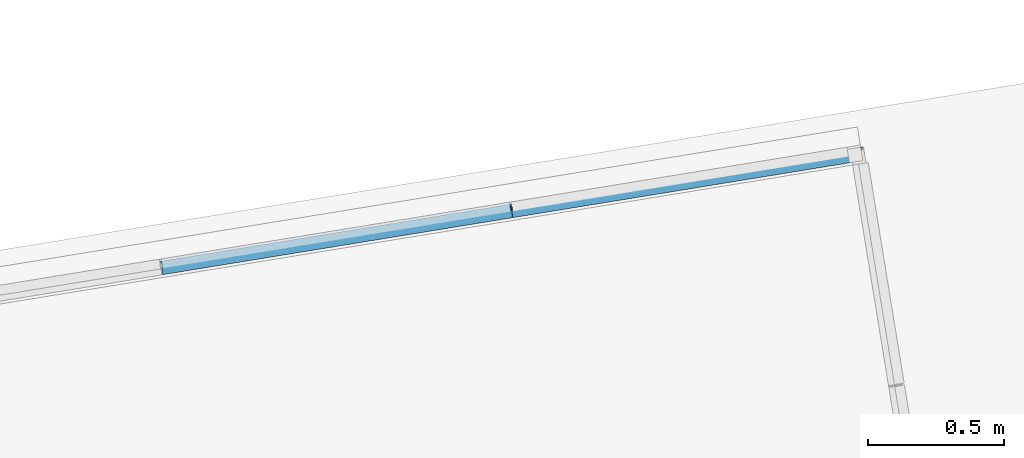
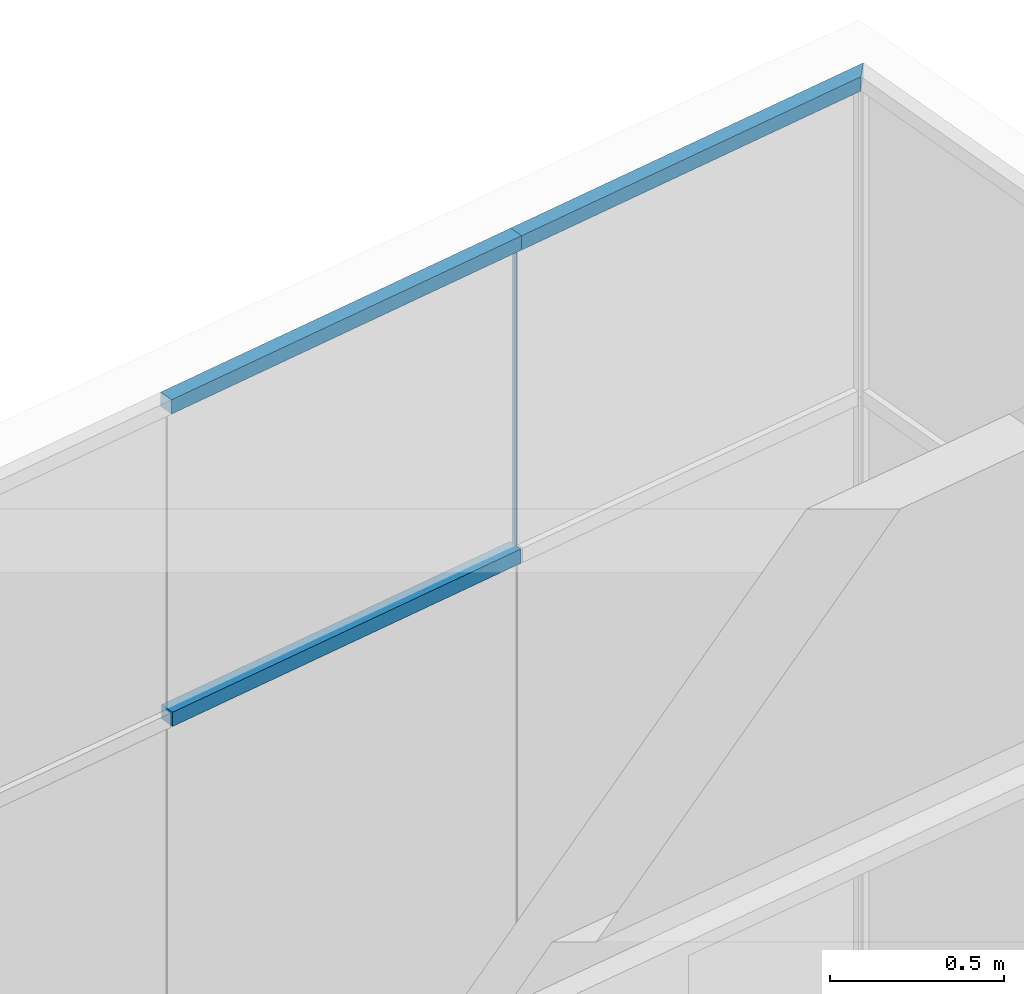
# One storey, part 10 of 13: 4 members, 1 element without a shape of its own.
"""IFC2X3 building model written with IfcOpenShell, lengths in millimetres."""

from ifc_helpers import new_model, entity, si_unit, converted_unit, derived_unit, direction, frame, origin, origin_with_axes, origin_2d_with_axis, place, context, subcontext, project, spatial, polyline, rectangle, outline, extrude, source, transform, mapped, material, type_object, element, aggregate, save


model = new_model("IFC2X3")

# Units and contexts
plan_context = context("Plan", 3, precision=1e-05, world=origin_with_axes())
model_context = context("Model", 3, precision=0.01, world=origin(), true_north=direction((6.12323399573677e-17, 1.0)))
body_context = subcontext(model_context, "Body", "Model", "MODEL_VIEW")
ifc_project = project(units=[converted_unit("PLANEANGLEUNIT", "DEGREE", entity("IfcPositiveLengthMeasure", 0.0174532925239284), si_unit("PLANEANGLEUNIT", "RADIAN"), dimensions=[0, 0, 0, 0, 0, 0, 0]), si_unit("AREAUNIT", "SQUARE_METRE"), si_unit("LENGTHUNIT", "METRE", prefix="MILLI"), si_unit("MASSUNIT", "GRAM", prefix="KILO"), si_unit("POWERUNIT", "WATT"), si_unit("PRESSUREUNIT", "PASCAL", prefix="KILO"), si_unit("FORCEUNIT", "NEWTON", prefix="KILO"), si_unit("ELECTRICVOLTAGEUNIT", "VOLT"), si_unit("ELECTRICCURRENTUNIT", "AMPERE"), si_unit("THERMODYNAMICTEMPERATUREUNIT", "DEGREE_CELSIUS"), si_unit("TIMEUNIT", "SECOND"), si_unit("VOLUMEUNIT", "CUBIC_METRE"), derived_unit("LINEARVELOCITYUNIT", [(si_unit("LENGTHUNIT", "METRE"), 1), (si_unit("TIMEUNIT", "SECOND"), -1)]), derived_unit("VOLUMETRICFLOWRATEUNIT", [(si_unit("VOLUMEUNIT", "CUBIC_METRE"), 1), (si_unit("TIMEUNIT", "SECOND"), -1)]), derived_unit("THERMALTRANSMITTANCEUNIT", [(si_unit("POWERUNIT", "WATT"), 1), (si_unit("THERMODYNAMICTEMPERATUREUNIT", "KELVIN"), -1), (si_unit("AREAUNIT", "SQUARE_METRE"), -1)]), derived_unit("SOUNDPRESSUREUNIT", [(si_unit("PRESSUREUNIT", "PASCAL"), 1)])], contexts=[model_context, plan_context])

# Site, building, storey
site_placement = place(None, frame((-305029.896016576, -232111.759730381, 0.0), z_axis=(0.0, 0.0, 1.0), x_axis=(-0.160806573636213, 0.986985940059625, 0.0)))
site = spatial("IfcSite", under=ifc_project, at=site_placement, Name="Default", CompositionType="ELEMENT")
building_placement = place(site_placement, frame((0.0, 0.0, 0.0), z_axis=(0.0, 0.0, 1.0), x_axis=(1.0, -2.77555756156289e-17, 0.0)))
building = spatial("IfcBuilding", under=site, at=building_placement, Name="br001-a-200-1-0001", CompositionType="ELEMENT")
storey_placement = place(building_placement, frame((0.0, 0.0, 51360.0000000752), z_axis=(0.0, 0.0, 1.0), x_axis=(1.0, -2.77555756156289e-17, 0.0)))
storey = spatial("IfcBuildingStorey", under=building, at=storey_placement, Name="H01-Nivå D+0,36", CompositionType="ELEMENT", Elevation=51360.0000000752)

# Curtain wall, members
curtain_wall_type = type_object("IfcCurtainWallType", Name="Curtain Wall:A243 Innvendig glassvegg", PredefinedType="NOTDEFINED")
curtain_wall_placement = place(storey_placement, frame((0.0, 0.0, -51360.0000000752), z_axis=(0.0, 0.0, 1.0), x_axis=(1.0, -2.77555756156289e-17, 0.0)))
curtain_wall = element("IfcCurtainWall", 1, at=curtain_wall_placement, inside=storey, type_object=curtain_wall_type, Name="Curtain Wall:A243 Innvendig glassvegg", ObjectType="Curtain Wall:A243 Innvendig glassvegg")
ifc_material_1 = material(Name="Metal - Aluminium")
member_type_1 = type_object("IfcMemberType", Name="Rectangular Mullion:NSW 50x50 Add on", PredefinedType="MULLION", material=ifc_material_1)
shared_shape_1 = source(origin(), body_context, "Body", "SweptSolid", [
    extrude(outline(polyline([(-667.500000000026, -25.0), (642.500000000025, -25.0), (642.500000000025, 25.0), (-617.500000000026, 25.0), (-667.500000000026, -25.0)])), frame((-50.0, 15.0, -657.500000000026), z_axis=(1.0, 0.0, 0.0), x_axis=(0.0, 0.0, -1.0)), (0.0, 0.0, 1.0), 50.0),
])
member_1_placement = place(curtain_wall_placement, frame((1160258.59858442, -711086.378367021, 54730.0000000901), z_axis=(-2.77555756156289e-17, -1.0, 0.0), x_axis=(0.0, 0.0, 1.0)))
member_1 = element("IfcMember", 2, at=member_1_placement, type_object=member_type_1, material=ifc_material_1, Name="Rectangular Mullion:NSW 50x50 Add on", ObjectType="Rectangular Mullion:NSW 50x50 Add on", context=body_context, shape_type="MappedRepresentation", body=[
    mapped(shared_shape_1, transform((0.0, 0.0, 0.0), scale=1.0)),
])
member_type_2 = type_object("IfcMemberType", Name="Rectangular Mullion:NSW 50x50 Add on", PredefinedType="MULLION", material=ifc_material_1)
shared_shape_2 = source(origin(), body_context, "Body", "SweptSolid", [
    extrude(rectangle(XDim=50.0, YDim=50.0, at=origin_2d_with_axis()), frame((-25.0, 15.0, -1300.0), z_axis=(0.0, 0.0, 1.0), x_axis=(-1.0, 0.0, 0.0)), (0.0, 0.0, 1.0), 1300.00000000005),
])
member_2_placement = place(curtain_wall_placement, frame((1160258.59858442, -709786.378367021, 54730.0000000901), z_axis=(-2.77555756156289e-17, -1.0, 0.0), x_axis=(0.0, 0.0, 1.0)))
member_2 = element("IfcMember", 3, at=member_2_placement, type_object=member_type_2, material=ifc_material_1, Name="Rectangular Mullion:NSW 50x50 Add on", ObjectType="Rectangular Mullion:NSW 50x50 Add on", context=body_context, shape_type="MappedRepresentation", body=[
    mapped(shared_shape_2, transform((0.0, 0.0, 0.0), scale=1.0)),
])
ifc_material_2 = material(Name="T2 - Rubber")
member_type_3 = type_object("IfcMemberType", Name="Rectangular Mullion:6.66x12", PredefinedType="MULLION", material=ifc_material_2)
shared_shape_3 = source(origin(), body_context, "Body", "SweptSolid", [
    extrude(rectangle(XDim=6.6, YDim=12.0, at=origin_2d_with_axis()), frame((0.0, 6.0, -1073.3333333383), z_axis=(0.0, 0.0, 1.0), x_axis=(-1.0, 0.0, 0.0)), (0.0, 0.0, 1.0), 1073.3333333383),
])
member_3_placement = place(curtain_wall_placement, frame((1160258.59858442, -709786.378367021, 53606.6666667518), z_axis=(0.0, 0.0, -1.0), x_axis=(-2.77555756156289e-17, -1.0, 0.0)))
member_3 = element("IfcMember", 4, at=member_3_placement, type_object=member_type_3, material=ifc_material_2, Name="Rectangular Mullion:6.66x12", ObjectType="Rectangular Mullion:6.66x12", context=body_context, shape_type="MappedRepresentation", body=[
    mapped(shared_shape_3, transform((0.0, 0.0, 0.0), scale=1.0)),
])
member_type_4 = type_object("IfcMemberType", Name="Rectangular Mullion:NSW 50x50 Add on", PredefinedType="MULLION", material=ifc_material_1)
shared_shape_4 = source(origin(), body_context, "Body", "SweptSolid", [
    extrude(rectangle(XDim=50.0, YDim=50.0, at=origin_2d_with_axis()), frame((0.0, 15.0, -1293.40000000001), z_axis=(0.0, 0.0, 1.0), x_axis=(-1.0, 0.0, 0.0)), (0.0, 0.0, 1.0), 1293.40000000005),
])
member_4_placement = place(curtain_wall_placement, frame((1160258.59858442, -709783.078367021, 53606.6666667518), z_axis=(-2.77555756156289e-17, -1.0, 0.0), x_axis=(0.0, 0.0, 1.0)))
member_4 = element("IfcMember", 5, at=member_4_placement, type_object=member_type_4, material=ifc_material_1, Name="Rectangular Mullion:NSW 50x50 Add on", ObjectType="Rectangular Mullion:NSW 50x50 Add on", context=body_context, shape_type="MappedRepresentation", body=[
    mapped(shared_shape_4, transform((0.0, 0.0, 0.0), scale=1.0)),
])
aggregate(curtain_wall, [member_1, member_2, member_3, member_4])

save(model, "model.ifc")
